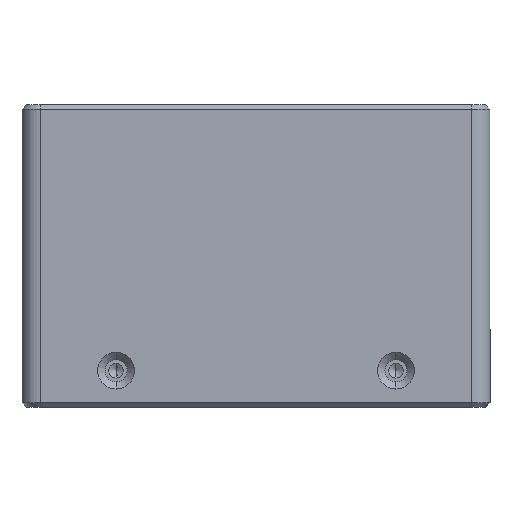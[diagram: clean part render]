
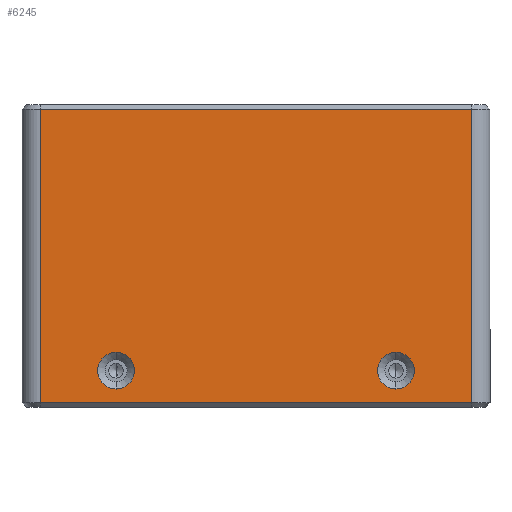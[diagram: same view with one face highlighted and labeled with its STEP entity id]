
A CAD part, left-side view. The second image highlights one B-rep face of the part: STEP entity #6245.
In plain terms, the highlighted planar face has unit normal (-1, 0, 0).
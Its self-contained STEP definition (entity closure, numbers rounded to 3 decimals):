
#56 = DIRECTION ( 'NONE',  ( -1., 0., 0. ) ) ;
#346 = ORIENTED_EDGE ( 'NONE', *, *, #1869, .T. ) ;
#372 = VERTEX_POINT ( 'NONE', #1650 ) ;
#695 = CARTESIAN_POINT ( 'NONE',  ( -86.283, -12.59, 16.797 ) ) ;
#762 = CIRCLE ( 'NONE', #1098, 2. ) ;
#1098 = AXIS2_PLACEMENT_3D ( 'NONE', #13192, #11179, #8081 ) ;
#1132 = EDGE_CURVE ( 'NONE', #5350, #3061, #5102, .T. ) ;
#1650 = CARTESIAN_POINT ( 'NONE',  ( -86.283, -4.34, 45.297 ) ) ;
#1674 = DIRECTION ( 'NONE',  ( 1., 0., 0. ) ) ;
#1688 = CARTESIAN_POINT ( 'NONE',  ( -86.283, -4.34, 45.297 ) ) ;
#1724 = DIRECTION ( 'NONE',  ( 0., 0., 1. ) ) ;
#1869 = EDGE_CURVE ( 'NONE', #3061, #372, #2096, .T. ) ;
#2096 = LINE ( 'NONE', #1688, #9361 ) ;
#2129 = CIRCLE ( 'NONE', #11917, 2. ) ;
#2203 = VERTEX_POINT ( 'NONE', #13158 ) ;
#2204 = DIRECTION ( 'NONE',  ( 0., 0., 1. ) ) ;
#2343 = FACE_BOUND ( 'NONE', #12770, .T. ) ;
#2490 = EDGE_CURVE ( 'NONE', #8474, #4771, #11920, .T. ) ;
#2697 = CARTESIAN_POINT ( 'NONE',  ( -86.283, -43.09, 14.797 ) ) ;
#3061 = VERTEX_POINT ( 'NONE', #5906 ) ;
#3475 = VECTOR ( 'NONE', #7198, 1000. ) ;
#3576 = VERTEX_POINT ( 'NONE', #7822 ) ;
#3962 = FACE_OUTER_BOUND ( 'NONE', #9723, .T. ) ;
#4136 = DIRECTION ( 'NONE',  ( 0., -1., 0. ) ) ;
#4227 = VECTOR ( 'NONE', #4276, 1000. ) ;
#4276 = DIRECTION ( 'NONE',  ( 0., 0., -1. ) ) ;
#4525 = ORIENTED_EDGE ( 'NONE', *, *, #8147, .F. ) ;
#4771 = VERTEX_POINT ( 'NONE', #2697 ) ;
#4883 = AXIS2_PLACEMENT_3D ( 'NONE', #8726, #12765, #7707 ) ;
#4968 = EDGE_CURVE ( 'NONE', #4771, #8474, #762, .T. ) ;
#5102 = LINE ( 'NONE', #11410, #3475 ) ;
#5120 = CIRCLE ( 'NONE', #6375, 2. ) ;
#5128 = CARTESIAN_POINT ( 'NONE',  ( -86.283, -51.34, 13.297 ) ) ;
#5327 = ORIENTED_EDGE ( 'NONE', *, *, #4968, .F. ) ;
#5350 = VERTEX_POINT ( 'NONE', #9734 ) ;
#5368 = ORIENTED_EDGE ( 'NONE', *, *, #12221, .T. ) ;
#5868 = AXIS2_PLACEMENT_3D ( 'NONE', #7866, #1674, #10900 ) ;
#5906 = CARTESIAN_POINT ( 'NONE',  ( -86.283, -51.34, 45.297 ) ) ;
#6095 = CARTESIAN_POINT ( 'NONE',  ( -86.283, -4.34, 12.797 ) ) ;
#6245 = ADVANCED_FACE ( 'NONE', ( #2343, #12191, #3962 ), #7961, .F. ) ;
#6375 = AXIS2_PLACEMENT_3D ( 'NONE', #695, #8007, #1724 ) ;
#6714 = CARTESIAN_POINT ( 'NONE',  ( -86.283, -4.34, 13.297 ) ) ;
#6994 = LINE ( 'NONE', #6095, #4227 ) ;
#7198 = DIRECTION ( 'NONE',  ( 0., 0., 1. ) ) ;
#7583 = VECTOR ( 'NONE', #4136, 1000. ) ;
#7707 = DIRECTION ( 'NONE',  ( 0., 0., 1. ) ) ;
#7822 = CARTESIAN_POINT ( 'NONE',  ( -86.283, -12.59, 14.797 ) ) ;
#7842 = DIRECTION ( 'NONE',  ( 0., 1., 0. ) ) ;
#7866 = CARTESIAN_POINT ( 'NONE',  ( -86.283, -2.34, 12.797 ) ) ;
#7961 = PLANE ( 'NONE',  #5868 ) ;
#8007 = DIRECTION ( 'NONE',  ( -1., 0., 0. ) ) ;
#8081 = DIRECTION ( 'NONE',  ( 0., 0., 1. ) ) ;
#8147 = EDGE_CURVE ( 'NONE', #3576, #2203, #2129, .T. ) ;
#8163 = EDGE_CURVE ( 'NONE', #372, #13083, #6994, .T. ) ;
#8447 = CARTESIAN_POINT ( 'NONE',  ( -86.283, -12.59, 16.797 ) ) ;
#8474 = VERTEX_POINT ( 'NONE', #8927 ) ;
#8544 = LINE ( 'NONE', #5128, #7583 ) ;
#8726 = CARTESIAN_POINT ( 'NONE',  ( -86.283, -43.09, 16.797 ) ) ;
#8927 = CARTESIAN_POINT ( 'NONE',  ( -86.283, -43.09, 18.797 ) ) ;
#9255 = ORIENTED_EDGE ( 'NONE', *, *, #2490, .F. ) ;
#9361 = VECTOR ( 'NONE', #7842, 1000. ) ;
#9559 = ORIENTED_EDGE ( 'NONE', *, *, #13215, .F. ) ;
#9723 = EDGE_LOOP ( 'NONE', ( #10320, #5368, #10292, #346 ) ) ;
#9734 = CARTESIAN_POINT ( 'NONE',  ( -86.283, -51.34, 13.297 ) ) ;
#10292 = ORIENTED_EDGE ( 'NONE', *, *, #1132, .T. ) ;
#10320 = ORIENTED_EDGE ( 'NONE', *, *, #8163, .T. ) ;
#10900 = DIRECTION ( 'NONE',  ( 0., 0., -1. ) ) ;
#11179 = DIRECTION ( 'NONE',  ( -1., 0., 0. ) ) ;
#11410 = CARTESIAN_POINT ( 'NONE',  ( -86.283, -51.34, 12.797 ) ) ;
#11783 = EDGE_LOOP ( 'NONE', ( #9255, #5327 ) ) ;
#11917 = AXIS2_PLACEMENT_3D ( 'NONE', #8447, #56, #2204 ) ;
#11920 = CIRCLE ( 'NONE', #4883, 2. ) ;
#12191 = FACE_BOUND ( 'NONE', #11783, .T. ) ;
#12221 = EDGE_CURVE ( 'NONE', #13083, #5350, #8544, .T. ) ;
#12765 = DIRECTION ( 'NONE',  ( -1., 0., 0. ) ) ;
#12770 = EDGE_LOOP ( 'NONE', ( #9559, #4525 ) ) ;
#13083 = VERTEX_POINT ( 'NONE', #6714 ) ;
#13158 = CARTESIAN_POINT ( 'NONE',  ( -86.283, -12.59, 18.797 ) ) ;
#13192 = CARTESIAN_POINT ( 'NONE',  ( -86.283, -43.09, 16.797 ) ) ;
#13215 = EDGE_CURVE ( 'NONE', #2203, #3576, #5120, .T. ) ;
